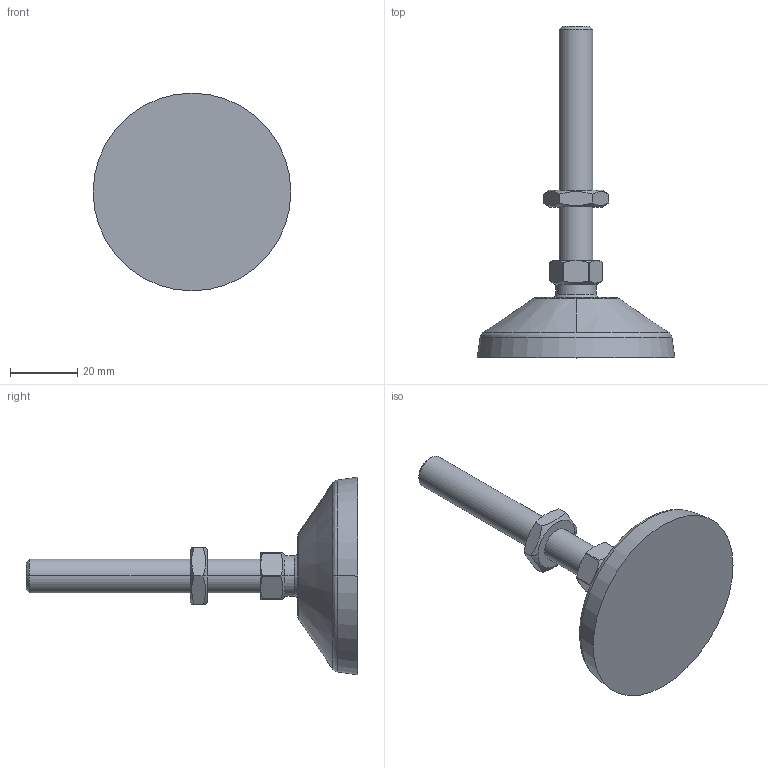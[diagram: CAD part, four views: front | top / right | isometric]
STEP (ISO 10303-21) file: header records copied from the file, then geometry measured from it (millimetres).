
FILE_DESCRIPTION (( 'STEP AP203' ), '1' );
FILE_NAME ('30020_STE8.60M10100.STEP', '2018-03-16T11:07:45', ( '' ), ( '' ), 'SwSTEP 2.0', 'SolidWorks 2017', '' );
FILE_SCHEMA (( 'CONFIG_CONTROL_DESIGN' ));
Length unit declared in the file: millimetre
Products named in the file (1): 30020_STE8.60M10100
Bounding box: 59 x 99 x 59 mm (x, y, z)
Volume: 41625.4 mm3; surface area: 10495.5 mm2
Topology: 1 solids, 1 shells, 72 faces, 166 edges, 101 vertices
Faces by surface type: plane 24, cone 19, cylinder 15, bspline 14
Entity records: 2721 total; most frequent: CARTESIAN_POINT 1108, ORIENTED_EDGE 332, DIRECTION 310, EDGE_CURVE 166, AXIS2_PLACEMENT_3D 135, VERTEX_POINT 101, EDGE_LOOP 77, CIRCLE 76
